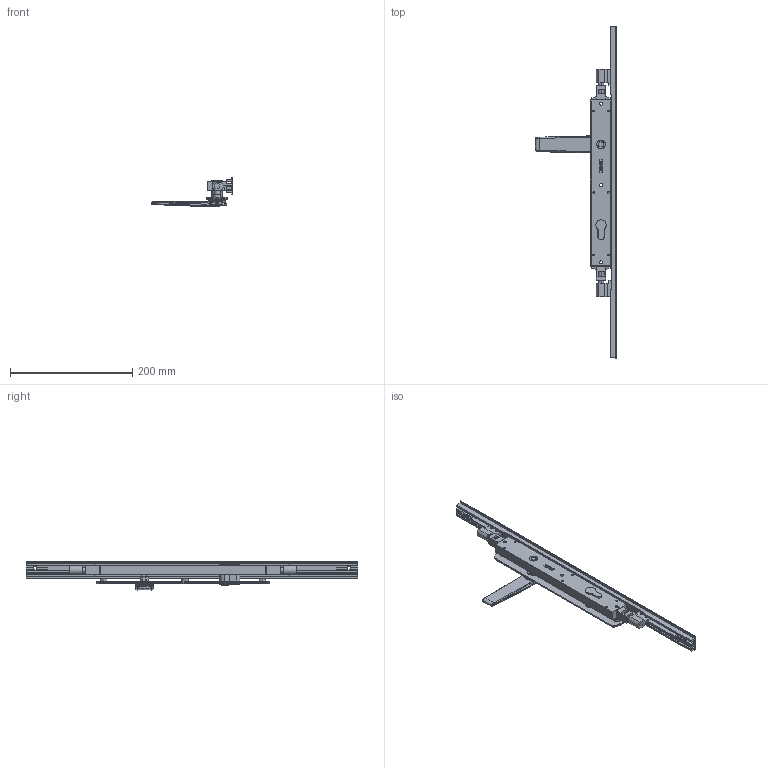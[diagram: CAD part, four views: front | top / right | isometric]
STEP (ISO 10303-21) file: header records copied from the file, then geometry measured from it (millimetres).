
FILE_DESCRIPTION (( 'STEP AP214' ), '1' );
FILE_NAME ('TPL-W-EU-623-U 06Nov2024.STEP', '2024-11-27T05:36:10', ( '' ), ( '' ), 'SwSTEP 2.0', 'SolidWorks 2023', '' );
FILE_SCHEMA (( 'AUTOMOTIVE_DESIGN' ));
Length unit declared in the file: millimetre
Products named in the file (19): Copy of Copy of LKC-531 Lock twinpoint transmission rod wood system^TPL-W-EU-123 04Nov2024_Standard Range 2891.7mm; Copy of Adapter DnF - simplfied^TPL-W-EU-123 04Nov2024_26mm backset; Copy of COV-112-B Cover B suit TPLGen2 standard range^TPL-W-EU-123 04Nov2024_2870mm; TPLGen2 push rod - simplified_Female thread M10; Copy of COV-112-A Cover A suit TPLGen2 standard range^TPL-W-EU-123 04Nov2024_1335mm; Copy of COV-112-C Cover C TPLGen2 Lock body^TPL-W-EU-123 04Nov2024; Copy of LKC-512 Escutcheon plate keyed internal 285mm long zinc - simplified^Copy of TPGen2 handle keyed internal zinc - simplified_TPL-W-EU-123 04Nov2024; Copy of Adapter CnE - simplfied^TPL-W-EU-123 04Nov2024_26mm backset; Bolt.step; Copy of TPLGen2 lock body keyed assembly^TPL-W-EU-123 04Nov2024_Bolts retracted; Copy of LKC-586 Spindle square 8mm with M4 hole^Copy of TPGen2 handle keyed internal zinc - simplified_TPL-W-EU-123 04Nov2024_25mm; Copy of LKC-531 Lock twinpoint transmission rod wood system^TPL-W-EU-123 04Nov2024_Standard Range (588.7mm); Copy of TPLGen2 lock body keyed^Copy of TPLGen2 lock body keyed assembly_TPL-W-EU-123 04Nov2024; TPL-W-EU-623-U 06Nov2024; Copy of TPGen2 handle keyed internal zinc - simplified^TPL-W-EU-123 04Nov2024_Right; Copy of LKC-585 Rotator body zinc^Copy of TPGen2 handle keyed internal zinc - simplified_TPL-W-EU-123 04Nov2024; Copy of LKC-584 Pivot body zinc - simplified^Copy of TPGen2 handle keyed internal zinc - simplified_TPL-W-EU-123 04Nov2024; Copy of LKC-505 Swing handle zinc - simplified^Copy of TPGen2 handle keyed internal zinc - simplified_TPL-W-EU-123 04Nov2024; Copy of TPL-W-EU-130 04Nov2024^TPL-W-EU-123 04Nov2024_TPL-022 Left
Assembly tree (16 placements, depth 3):
  Copy of COV-112-B Cover B suit TPLGen2 standard range^TPL-W-EU-123 04Nov2024_2870mm
  Copy of COV-112-A Cover A suit TPLGen2 standard range^TPL-W-EU-123 04Nov2024_1335mm
  Bolt.step
  TPL-W-EU-623-U 06Nov2024
    Copy of TPLGen2 lock body keyed assembly^TPL-W-EU-123 04Nov2024_Bolts retracted
      Copy of TPLGen2 lock body keyed^Copy of TPLGen2 lock body keyed assembly_TPL-W-EU-123 04Nov2024
      TPLGen2 push rod - simplified_Female thread M10  x2
    Copy of TPGen2 handle keyed internal zinc - simplified^TPL-W-EU-123 04Nov2024_Right
      Copy of LKC-512 Escutcheon plate keyed internal 285mm long zinc - simplified^Copy of TPGen2 handle keyed internal zinc - simplified_TPL-W-EU-123 04Nov2024
      Copy of LKC-505 Swing handle zinc - simplified^Copy of TPGen2 handle keyed internal zinc - simplified_TPL-W-EU-123 04Nov2024
      Copy of LKC-585 Rotator body zinc^Copy of TPGen2 handle keyed internal zinc - simplified_TPL-W-EU-123 04Nov2024
      Copy of LKC-586 Spindle square 8mm with M4 hole^Copy of TPGen2 handle keyed internal zinc - simplified_TPL-W-EU-123 04Nov2024_25mm
      Copy of LKC-584 Pivot body zinc - simplified^Copy of TPGen2 handle keyed internal zinc - simplified_TPL-W-EU-123 04Nov2024
    Copy of TPL-W-EU-130 04Nov2024^TPL-W-EU-123 04Nov2024_TPL-022 Left
    Copy of COV-112-C Cover C TPLGen2 Lock body^TPL-W-EU-123 04Nov2024
    Copy of LKC-531 Lock twinpoint transmission rod wood system^TPL-W-EU-123 04Nov2024_Standard Range (588.7mm)
    Copy of Copy of LKC-531 Lock twinpoint transmission rod wood system^TPL-W-EU-123 04Nov2024_Standard Range 2891.7mm
    Copy of Adapter CnE - simplfied^TPL-W-EU-123 04Nov2024_26mm backset
    Copy of Adapter DnF - simplfied^TPL-W-EU-123 04Nov2024_26mm backset
Bounding box: 134.12 x 544 x 46.26 mm (x, y, z)
Volume: 282920.2 mm3; surface area: 139916.2 mm2
Topology: 14 solids, 14 shells, 921 faces, 2293 edges, 1430 vertices
Faces by surface type: plane 325, bspline 241, cylinder 230, cone 71, torus 46, sphere 8
Entity records: 33110 total; most frequent: CARTESIAN_POINT 13052, ORIENTED_EDGE 4394, DIRECTION 3632, EDGE_CURVE 2197, VERTEX_POINT 1370, AXIS2_PLACEMENT_3D 1336, EDGE_LOOP 985, VECTOR 960
